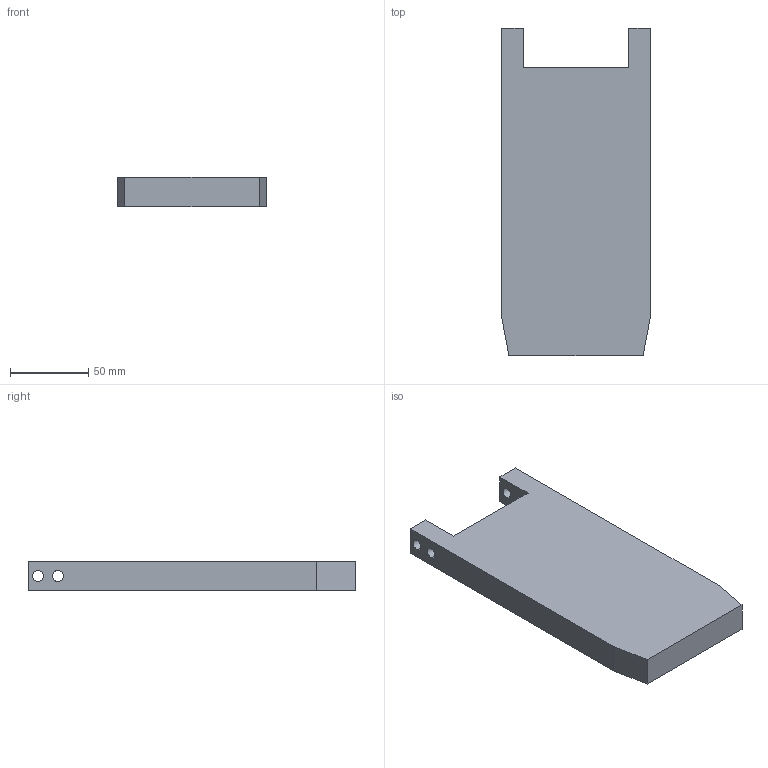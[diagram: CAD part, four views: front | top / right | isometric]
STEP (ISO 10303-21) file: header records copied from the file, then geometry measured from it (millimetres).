
FILE_DESCRIPTION (( 'STEP AP203' ), '1' );
FILE_NAME ('269-18-413.STEP', '2020-03-02T20:30:44', ( '' ), ( '' ), 'SwSTEP 2.0', 'SolidWorks 2017', '' );
FILE_SCHEMA (( 'CONFIG_CONTROL_DESIGN' ));
Length unit declared in the file: inch
Products named in the file (1): 269-18-413
Bounding box: 95.25 x 209.55 x 19.05 mm (x, y, z)
Volume: 343132 mm3; surface area: 49611.3 mm2
Topology: 1 solids, 1 shells, 20 faces, 54 edges, 36 vertices
Faces by surface type: plane 12, cylinder 8
Entity records: 729 total; most frequent: DIRECTION 112, CARTESIAN_POINT 111, ORIENTED_EDGE 108, EDGE_CURVE 54, LINE 38, VECTOR 38, AXIS2_PLACEMENT_3D 37, VERTEX_POINT 36
